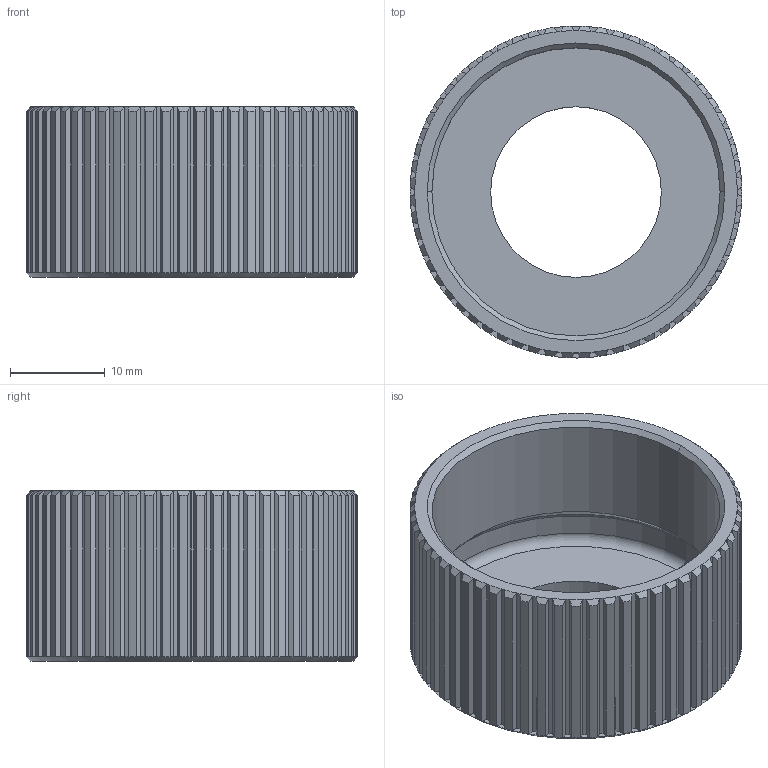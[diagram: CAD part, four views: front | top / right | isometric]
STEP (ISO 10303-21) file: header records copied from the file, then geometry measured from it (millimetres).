
FILE_DESCRIPTION (( 'STEP AP214' ), '1' );
FILE_NAME ('Ãàéêà íàêèäíàÿ çîíä.STEP', '2023-02-02T13:23:04', ( '' ), ( '' ), 'SwSTEP 2.0', 'SolidWorks 2020', '' );
FILE_SCHEMA (( 'AUTOMOTIVE_DESIGN' ));
Length unit declared in the file: millimetre
Products named in the file (1): Ãàéêà íàêèäíàÿ çîíä
Bounding box: 35 x 35 x 18 mm (x, y, z)
Volume: 4366.9 mm3; surface area: 5690.3 mm2
Topology: 1 solids, 1 shells, 500 faces, 1121 edges, 624 vertices
Faces by surface type: plane 303, cylinder 127, cone 66, torus 4
Entity records: 13721 total; most frequent: CARTESIAN_POINT 2654, DIRECTION 2391, ORIENTED_EDGE 2242, EDGE_CURVE 1121, AXIS2_PLACEMENT_3D 889, VERTEX_POINT 624, VECTOR 613, LINE 613
